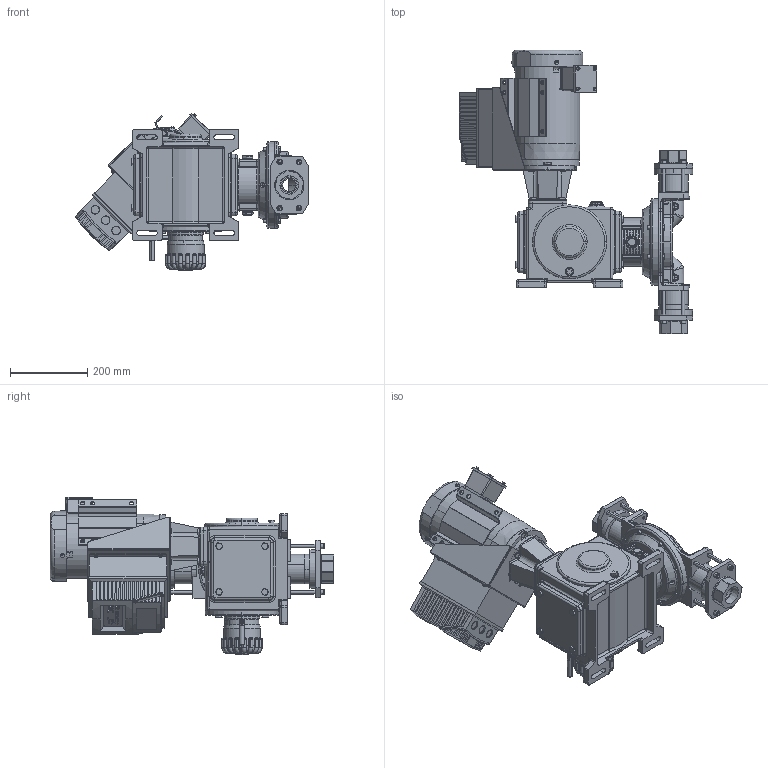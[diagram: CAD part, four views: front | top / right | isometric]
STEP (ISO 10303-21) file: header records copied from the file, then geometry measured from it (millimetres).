
FILE_DESCRIPTION (( 'STEP AP203' ), '1' );
FILE_NAME ('DM7JVAH.STEP', '2025-03-21T12:06:26', ( '' ), ( '' ), 'SwSTEP 2.0', 'SolidWorks 2023', '' );
FILE_SCHEMA (( 'CONFIG_CONTROL_DESIGN' ));
Length unit declared in the file: inch
Products named in the file (1): DM7JVAH
Bounding box: 604.64 x 735.49 x 408.65 mm (x, y, z)
Surface area: 1517485 mm2 (no closed solid volume)
Topology: 0 solids, 220 shells, 2614 faces, 11498 edges, 8751 vertices
Faces by surface type: plane 1149, cylinder 705, bspline 270, torus 244, cone 177, sphere 69
Entity records: 148468 total; most frequent: CARTESIAN_POINT 61074, DIRECTION 16666, ORIENTED_EDGE 16360, EDGE_CURVE 11400, VERTEX_POINT 8751, VECTOR 6298, LINE 6298, AXIS2_PLACEMENT_3D 5184
